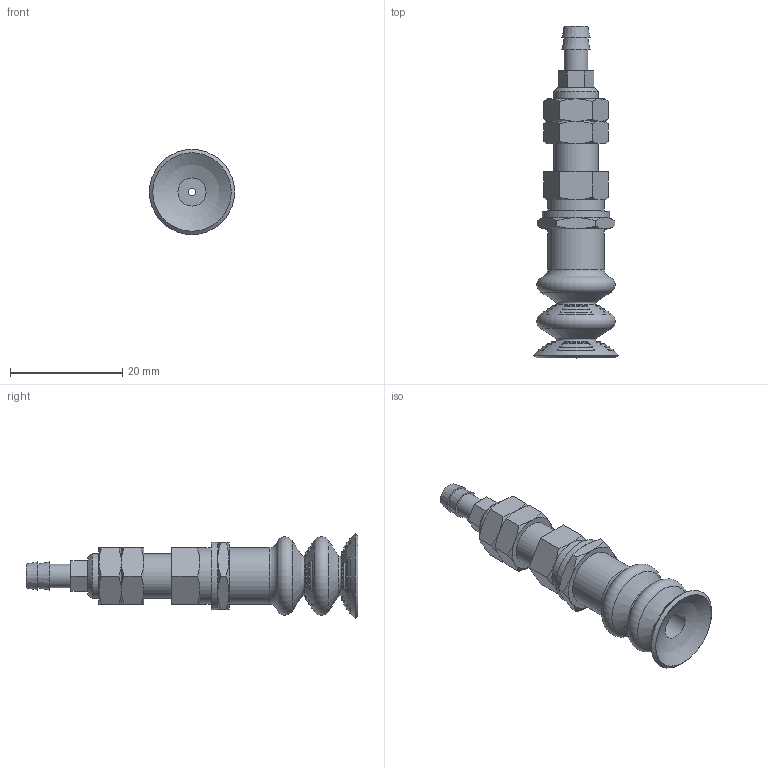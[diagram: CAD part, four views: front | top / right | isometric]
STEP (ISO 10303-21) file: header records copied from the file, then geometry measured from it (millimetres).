
FILE_DESCRIPTION(('STEP AP203'),'1');
FILE_NAME('.stp','2025-04-02T05:45:13',(' '),(' '),'Spatial InterOp 3D',' ',' ');
FILE_SCHEMA(('CONFIG_CONTROL_DESIGN'));
Length unit declared in the file: millimetre
Products named in the file (5): BBPCTK-15-※; Adapter-15-T; Nut PC_K 15; PCTK-15; BPCG-15-※_3D
Assembly tree (5 placements, depth 2):
  BBPCTK-15-※
    Adapter-15-T
    Nut PC_K 15  x2
    PCTK-15
    BPCG-15-※_3D
Bounding box: 15.2 x 59.2 x 15.2 mm (x, y, z)
Volume: 3827.9 mm3; surface area: 4178 mm2
Topology: 5 solids, 5 shells, 214 faces, 649 edges, 419 vertices
Faces by surface type: cone 58, sphere 58, plane 49, torus 34, cylinder 15
Full cylindrical faces by diameter (mm): 1.25 x1, 3 x1, 4.134 x1, 4.26 x1, 5 x5, 6.647 x2, 8 x1, 10 x2, 12 x1
Entity records: 5951 total; most frequent: CARTESIAN_POINT 1672, DIRECTION 882, ORIENTED_EDGE 746, AXIS2_PLACEMENT_3D 420, EDGE_CURVE 373, EDGE_LOOP 272, VERTEX_POINT 263, CIRCLE 223
